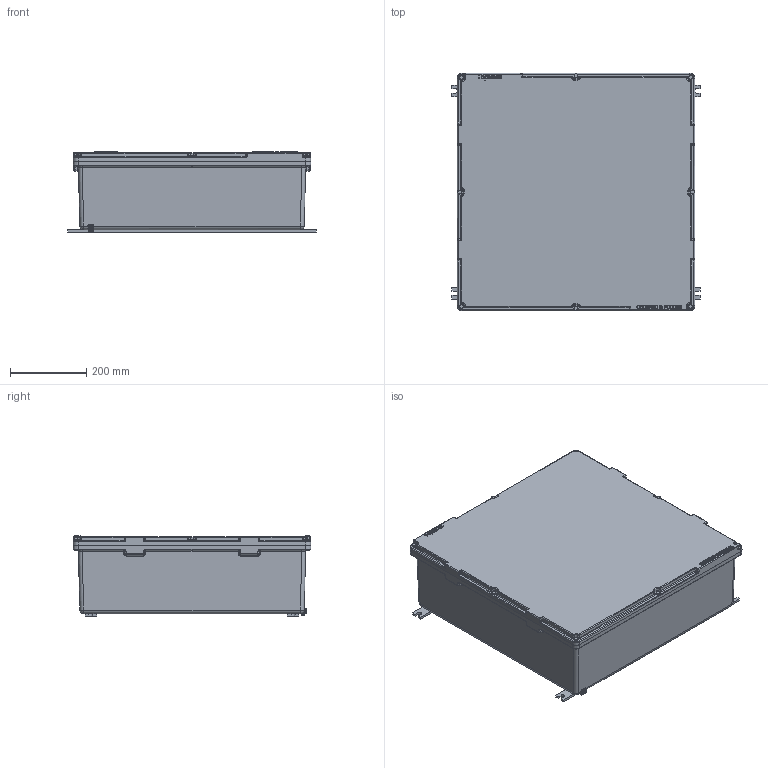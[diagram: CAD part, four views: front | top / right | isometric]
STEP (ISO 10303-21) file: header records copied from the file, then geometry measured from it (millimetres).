
FILE_DESCRIPTION((''),'2;1');
FILE_NAME('D:\ТЗ\Для отдела рекламы\КСРВ626221_M1.stp','2024-01-23T13:20:03',('A.V.Dzhibladze'),(''),'Autodesk Inventor 2012','Autodesk Inventor 2012','');
FILE_SCHEMA(('AUTOMOTIVE_DESIGN { 1 2 10303 214 0 1 1 1 }'));
Length unit declared in the file: millimetre
Products named in the file (1): КСРВ626220_M1_Внешний контур_1
Bounding box: 650 x 622.16 x 210.2 mm (x, y, z)
Volume: 11003320 mm3; surface area: 2383593 mm2
Topology: 1 solids, 14 shells, 2322 faces, 5706 edges, 3464 vertices
Faces by surface type: plane 779, bspline 639, cylinder 599, cone 155, torus 96, sphere 54
Full cylindrical faces by diameter (mm): 4.917 x22, 5.459 x8, 6 x9, 6.5 x9, 7.4 x1, 8.4 x4, 8.7 x8, 11 x4, 19.22 x4
Entity records: 86061 total; most frequent: CARTESIAN_POINT 32855, ORIENTED_EDGE 10952, DIRECTION 9712, EDGE_CURVE 5476, AXIS2_PLACEMENT_3D 3580, VERTEX_POINT 3400, EDGE_LOOP 2566, VECTOR 2552
